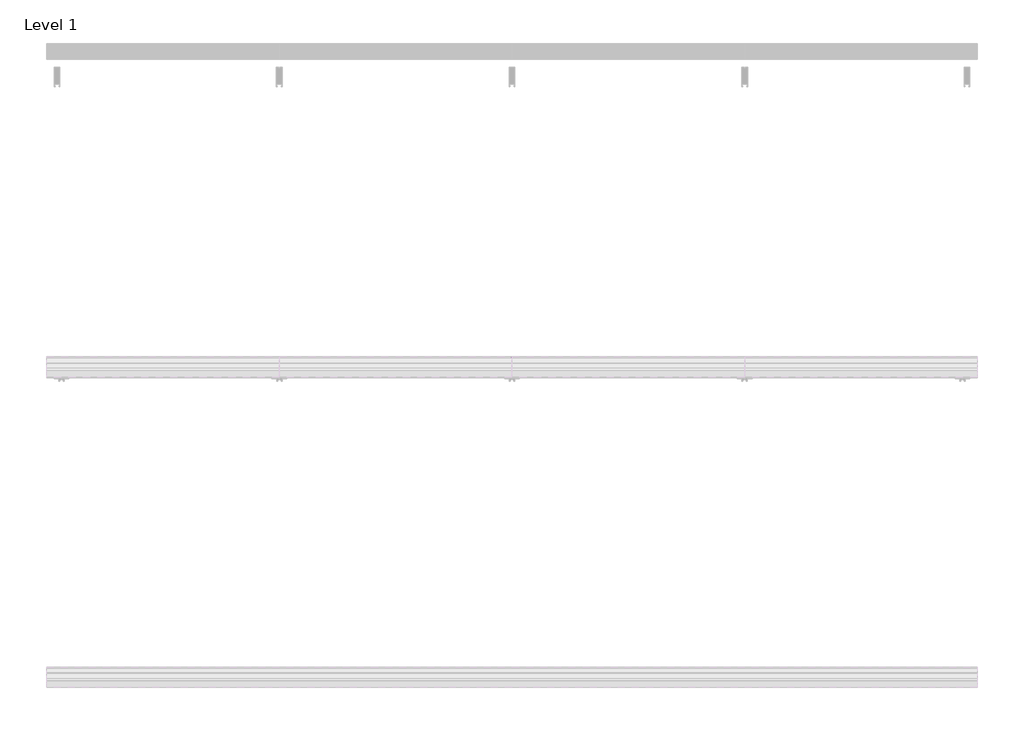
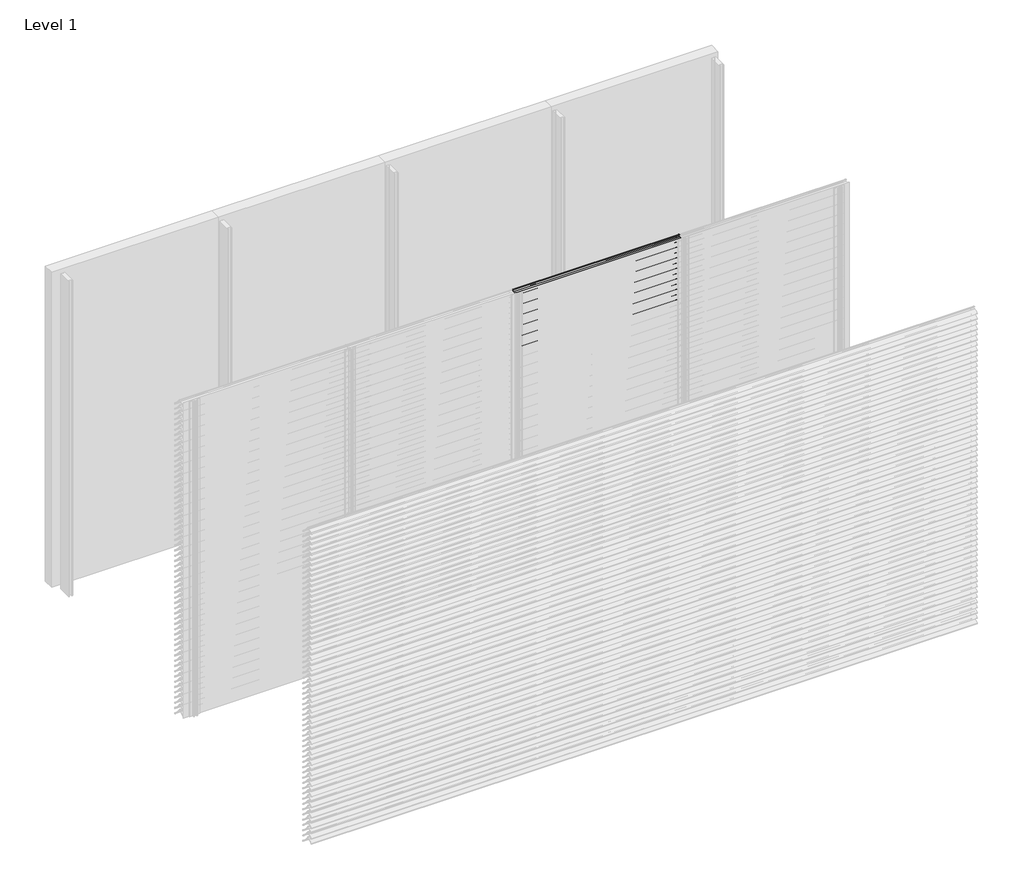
# One storey, part 13 of 173: 17 proxies.
"""IFC4 building model written with IfcOpenShell, lengths in millimetres."""

from ifc_helpers import new_model, si_unit, point, frame, frame_2d, origin, place, context, project, spatial, polyline, circle_curve, trimmed, segment, composite_curve, outline, extrude, element, save

model = new_model("IFC4")

# Units and contexts
model_context = context("Model", 3, world=origin())
ifc_project = project(units=[si_unit("LENGTHUNIT", "METRE", prefix="MILLI")], contexts=[model_context])

# Site, building, storey
site = spatial("IfcSite", under=ifc_project)
building = spatial("IfcBuilding", under=site)
storey = spatial("IfcBuildingStorey", under=building, Name="Level 1", Elevation=0.0)

# Proxies
placement = place(None, origin())
element("IfcBuildingElementProxy", 1, Name="Wall Sweeps", at=placement, inside=storey, context=model_context, shape_type="SweptSolid", body=[
    extrude(outline(composite_curve([segment(polyline([(-53998.0, 159.1474905), (-53998.0, 161.6227417)]), True, "CONTINUOUS"), segment(trimmed(circle_curve(frame_2d((-53951.2682172, 116.2200208)), 65.1557103), [point((-53998.0, 161.6227417))], [point((-53954.4014323, 181.3003524))], False, "CARTESIAN"), True, "CONTINUOUS"), segment(polyline([(-53954.4014323, 181.3003524), (-53934.8315836, 181.3003524)]), True, "CONTINUOUS"), segment(trimmed(circle_curve(frame_2d((-53732.7329489, 328.5533172)), 250.0545817), [point((-53934.8315836, 181.3003524))], [point((-53941.4452143, 190.8344583))], False, "CARTESIAN"), True, "CONTINUOUS"), segment(trimmed(circle_curve(frame_2d((-53953.2981792, 185.1737835)), 13.1352966), [point((-53941.4452143, 190.8344583))], [point((-53953.8171475, 198.298824))], True, "CARTESIAN"), True, "CONTINUOUS"), segment(polyline([(-53953.8171475, 198.298824), (-53953.8171475, 200.0)]), True, "CONTINUOUS"), segment(trimmed(circle_curve(frame_2d((-53953.2981792, 185.1737835)), 14.8352966), [point((-53953.8171475, 200.0))], [point((-53939.9637661, 191.6760487))], False, "CARTESIAN"), True, "CONTINUOUS"), segment(trimmed(circle_curve(frame_2d((-53732.7329489, 328.5533172)), 248.3545817), [point((-53939.9637661, 191.6760487))], [point((-53873.8787895, 124.2059416))], True, "CARTESIAN"), True, "CONTINUOUS"), segment(trimmed(circle_curve(frame_2d((-53883.8147537, 111.6649442)), 16.0), [point((-53873.8787895, 124.2059416))], [point((-53867.8648347, 110.4))], False, "CARTESIAN"), True, "CONTINUOUS"), segment(polyline([(-53867.8648347, 110.4), (-53869.6712069, 110.4)]), True, "CONTINUOUS"), segment(trimmed(circle_curve(frame_2d((-53883.8147537, 111.6649442)), 14.2), [point((-53869.6712069, 110.4))], [point((-53874.9518628, 122.7594998))], True, "CARTESIAN"), True, "CONTINUOUS"), segment(trimmed(circle_curve(frame_2d((-53732.7329489, 328.5533172)), 250.1545817), [point((-53874.9518628, 122.7594998))], [point((-53933.7064024, 179.6003524))], False, "CARTESIAN"), True, "CONTINUOUS"), segment(polyline([(-53933.7064024, 179.6003524), (-53954.3602632, 179.6003524)]), True, "CONTINUOUS"), segment(trimmed(circle_curve(frame_2d((-53951.2682172, 116.2200208)), 63.4557103), [point((-53954.3602632, 179.6003524))], [point((-53998.0, 159.1474905))], True, "CARTESIAN"), True, "CONTINUOUS")], self_intersect=False)), frame((1500.0, 0.0, 0.0), z_axis=(1.0, 0.0, 0.0), x_axis=(0.0, 1.0, 0.0)), (0.0, 0.0, 1.0), 1500.0),
])
element("IfcBuildingElementProxy", 2, Name="Wall Sweeps", at=placement, inside=storey, context=model_context, shape_type="SweptSolid", body=[
    extrude(outline(composite_curve([segment(polyline([(-53998.0, 109.1474905), (-53998.0, 111.6227417)]), True, "CONTINUOUS"), segment(trimmed(circle_curve(frame_2d((-53951.2682172, 66.2200208)), 65.1557103), [point((-53998.0, 111.6227417))], [point((-53954.4014323, 131.3003524))], False, "CARTESIAN"), True, "CONTINUOUS"), segment(polyline([(-53954.4014323, 131.3003524), (-53934.8315836, 131.3003524)]), True, "CONTINUOUS"), segment(trimmed(circle_curve(frame_2d((-53732.7329489, 278.5533172)), 250.0545817), [point((-53934.8315836, 131.3003524))], [point((-53941.4452143, 140.8344583))], False, "CARTESIAN"), True, "CONTINUOUS"), segment(trimmed(circle_curve(frame_2d((-53953.2981792, 135.1737835)), 13.1352966), [point((-53941.4452143, 140.8344583))], [point((-53953.8171475, 148.298824))], True, "CARTESIAN"), True, "CONTINUOUS"), segment(polyline([(-53953.8171475, 148.298824), (-53953.8171475, 150.0)]), True, "CONTINUOUS"), segment(trimmed(circle_curve(frame_2d((-53953.2981792, 135.1737835)), 14.8352966), [point((-53953.8171475, 150.0))], [point((-53939.9637661, 141.6760487))], False, "CARTESIAN"), True, "CONTINUOUS"), segment(trimmed(circle_curve(frame_2d((-53732.7329489, 278.5533172)), 248.3545817), [point((-53939.9637661, 141.6760487))], [point((-53873.8787895, 74.2059416))], True, "CARTESIAN"), True, "CONTINUOUS"), segment(trimmed(circle_curve(frame_2d((-53883.8147537, 61.6649442)), 16.0), [point((-53873.8787895, 74.2059416))], [point((-53867.8648347, 60.4))], False, "CARTESIAN"), True, "CONTINUOUS"), segment(polyline([(-53867.8648347, 60.4), (-53869.6712069, 60.4)]), True, "CONTINUOUS"), segment(trimmed(circle_curve(frame_2d((-53883.8147537, 61.6649442)), 14.2), [point((-53869.6712069, 60.4))], [point((-53874.9518628, 72.7594998))], True, "CARTESIAN"), True, "CONTINUOUS"), segment(trimmed(circle_curve(frame_2d((-53732.7329489, 278.5533172)), 250.1545817), [point((-53874.9518628, 72.7594998))], [point((-53933.7064024, 129.6003524))], False, "CARTESIAN"), True, "CONTINUOUS"), segment(polyline([(-53933.7064024, 129.6003524), (-53954.3602632, 129.6003524)]), True, "CONTINUOUS"), segment(trimmed(circle_curve(frame_2d((-53951.2682172, 66.2200208)), 63.4557103), [point((-53954.3602632, 129.6003524))], [point((-53998.0, 109.1474905))], True, "CARTESIAN"), True, "CONTINUOUS")], self_intersect=False)), frame((1500.0, 0.0, 0.0), z_axis=(1.0, 0.0, 0.0), x_axis=(0.0, 1.0, 0.0)), (0.0, 0.0, 1.0), 1500.0),
])
element("IfcBuildingElementProxy", 3, Name="Wall Sweeps", at=placement, inside=storey, context=model_context, shape_type="SweptSolid", body=[
    extrude(outline(composite_curve([segment(polyline([(-53998.0, 59.1474905), (-53998.0, 61.6227417)]), True, "CONTINUOUS"), segment(trimmed(circle_curve(frame_2d((-53951.2682172, 16.2200208)), 65.1557103), [point((-53998.0, 61.6227417))], [point((-53954.4014323, 81.3003524))], False, "CARTESIAN"), True, "CONTINUOUS"), segment(polyline([(-53954.4014323, 81.3003524), (-53934.8315836, 81.3003524)]), True, "CONTINUOUS"), segment(trimmed(circle_curve(frame_2d((-53732.7329489, 228.5533172)), 250.0545817), [point((-53934.8315836, 81.3003524))], [point((-53941.4452143, 90.8344583))], False, "CARTESIAN"), True, "CONTINUOUS"), segment(trimmed(circle_curve(frame_2d((-53953.2981792, 85.1737835)), 13.1352966), [point((-53941.4452143, 90.8344583))], [point((-53953.8171475, 98.298824))], True, "CARTESIAN"), True, "CONTINUOUS"), segment(polyline([(-53953.8171475, 98.298824), (-53953.8171475, 100.0)]), True, "CONTINUOUS"), segment(trimmed(circle_curve(frame_2d((-53953.2981792, 85.1737835)), 14.8352966), [point((-53953.8171475, 100.0))], [point((-53939.9637661, 91.6760487))], False, "CARTESIAN"), True, "CONTINUOUS"), segment(trimmed(circle_curve(frame_2d((-53732.7329489, 228.5533172)), 248.3545817), [point((-53939.9637661, 91.6760487))], [point((-53873.8787895, 24.2059416))], True, "CARTESIAN"), True, "CONTINUOUS"), segment(trimmed(circle_curve(frame_2d((-53883.8147537, 11.6649442)), 16.0), [point((-53873.8787895, 24.2059416))], [point((-53867.8648347, 10.4))], False, "CARTESIAN"), True, "CONTINUOUS"), segment(polyline([(-53867.8648347, 10.4), (-53869.6712069, 10.4)]), True, "CONTINUOUS"), segment(trimmed(circle_curve(frame_2d((-53883.8147537, 11.6649442)), 14.2), [point((-53869.6712069, 10.4))], [point((-53874.9518628, 22.7594998))], True, "CARTESIAN"), True, "CONTINUOUS"), segment(trimmed(circle_curve(frame_2d((-53732.7329489, 228.5533172)), 250.1545817), [point((-53874.9518628, 22.7594998))], [point((-53933.7064024, 79.6003524))], False, "CARTESIAN"), True, "CONTINUOUS"), segment(polyline([(-53933.7064024, 79.6003524), (-53954.3602632, 79.6003524)]), True, "CONTINUOUS"), segment(trimmed(circle_curve(frame_2d((-53951.2682172, 16.2200208)), 63.4557103), [point((-53954.3602632, 79.6003524))], [point((-53998.0, 59.1474905))], True, "CARTESIAN"), True, "CONTINUOUS")], self_intersect=False)), frame((1500.0, 0.0, 0.0), z_axis=(1.0, 0.0, 0.0), x_axis=(0.0, 1.0, 0.0)), (0.0, 0.0, 1.0), 1500.0),
])
element("IfcBuildingElementProxy", 4, Name="Wall Sweeps", at=placement, inside=storey, context=model_context, shape_type="SweptSolid", body=[
    extrude(outline(composite_curve([segment(polyline([(-53998.0, 9.1474905), (-53998.0, 11.6227417)]), True, "CONTINUOUS"), segment(trimmed(circle_curve(frame_2d((-53951.2682172, -33.7799792)), 65.1557103), [point((-53998.0, 11.6227417))], [point((-53954.4014323, 31.3003524))], False, "CARTESIAN"), True, "CONTINUOUS"), segment(polyline([(-53954.4014323, 31.3003524), (-53934.8315836, 31.3003524)]), True, "CONTINUOUS"), segment(trimmed(circle_curve(frame_2d((-53732.7329489, 178.5533172)), 250.0545817), [point((-53934.8315836, 31.3003524))], [point((-53941.4452143, 40.8344583))], False, "CARTESIAN"), True, "CONTINUOUS"), segment(trimmed(circle_curve(frame_2d((-53953.2981792, 35.1737835)), 13.1352966), [point((-53941.4452143, 40.8344583))], [point((-53953.8171475, 48.298824))], True, "CARTESIAN"), True, "CONTINUOUS"), segment(polyline([(-53953.8171475, 48.298824), (-53953.8171475, 50.0)]), True, "CONTINUOUS"), segment(trimmed(circle_curve(frame_2d((-53953.2981792, 35.1737835)), 14.8352966), [point((-53953.8171475, 50.0))], [point((-53939.9637661, 41.6760487))], False, "CARTESIAN"), True, "CONTINUOUS"), segment(trimmed(circle_curve(frame_2d((-53732.7329489, 178.5533172)), 248.3545817), [point((-53939.9637661, 41.6760487))], [point((-53873.8787895, -25.7940584))], True, "CARTESIAN"), True, "CONTINUOUS"), segment(trimmed(circle_curve(frame_2d((-53883.8147537, -38.3350558)), 16.0), [point((-53873.8787895, -25.7940584))], [point((-53867.8648347, -39.6))], False, "CARTESIAN"), True, "CONTINUOUS"), segment(polyline([(-53867.8648347, -39.6), (-53869.6712069, -39.6)]), True, "CONTINUOUS"), segment(trimmed(circle_curve(frame_2d((-53883.8147537, -38.3350558)), 14.2), [point((-53869.6712069, -39.6))], [point((-53874.9518628, -27.2405002))], True, "CARTESIAN"), True, "CONTINUOUS"), segment(trimmed(circle_curve(frame_2d((-53732.7329489, 178.5533172)), 250.1545817), [point((-53874.9518628, -27.2405002))], [point((-53933.7064024, 29.6003524))], False, "CARTESIAN"), True, "CONTINUOUS"), segment(polyline([(-53933.7064024, 29.6003524), (-53954.3602632, 29.6003524)]), True, "CONTINUOUS"), segment(trimmed(circle_curve(frame_2d((-53951.2682172, -33.7799792)), 63.4557103), [point((-53954.3602632, 29.6003524))], [point((-53998.0, 9.1474905))], True, "CARTESIAN"), True, "CONTINUOUS")], self_intersect=False)), frame((1500.0, 0.0, 0.0), z_axis=(1.0, 0.0, 0.0), x_axis=(0.0, 1.0, 0.0)), (0.0, 0.0, 1.0), 1500.0),
])
element("IfcBuildingElementProxy", 5, Name="Wall Sweeps", at=placement, inside=storey, context=model_context, shape_type="SweptSolid", body=[
    extrude(outline(composite_curve([segment(polyline([(-53998.0, 2959.1474905), (-53998.0, 2961.6227417)]), True, "CONTINUOUS"), segment(trimmed(circle_curve(frame_2d((-53951.2682172, 2916.2200208)), 65.1557103), [point((-53998.0, 2961.6227417))], [point((-53954.4014323, 2981.3003524))], False, "CARTESIAN"), True, "CONTINUOUS"), segment(polyline([(-53954.4014323, 2981.3003524), (-53934.8315836, 2981.3003524)]), True, "CONTINUOUS"), segment(trimmed(circle_curve(frame_2d((-53732.7329489, 3128.5533172)), 250.0545817), [point((-53934.8315836, 2981.3003524))], [point((-53941.4452143, 2990.8344583))], False, "CARTESIAN"), True, "CONTINUOUS"), segment(trimmed(circle_curve(frame_2d((-53953.2981792, 2985.1737835)), 13.1352966), [point((-53941.4452143, 2990.8344583))], [point((-53953.8171475, 2998.298824))], True, "CARTESIAN"), True, "CONTINUOUS"), segment(polyline([(-53953.8171475, 2998.298824), (-53953.8171475, 3000.0)]), True, "CONTINUOUS"), segment(trimmed(circle_curve(frame_2d((-53953.2981792, 2985.1737835)), 14.8352966), [point((-53953.8171475, 3000.0))], [point((-53939.9637661, 2991.6760487))], False, "CARTESIAN"), True, "CONTINUOUS"), segment(trimmed(circle_curve(frame_2d((-53732.7329489, 3128.5533172)), 248.3545817), [point((-53939.9637661, 2991.6760487))], [point((-53873.8787895, 2924.2059416))], True, "CARTESIAN"), True, "CONTINUOUS"), segment(trimmed(circle_curve(frame_2d((-53883.8147537, 2911.6649442)), 16.0), [point((-53873.8787895, 2924.2059416))], [point((-53867.8648347, 2910.4))], False, "CARTESIAN"), True, "CONTINUOUS"), segment(polyline([(-53867.8648347, 2910.4), (-53869.6712069, 2910.4)]), True, "CONTINUOUS"), segment(trimmed(circle_curve(frame_2d((-53883.8147537, 2911.6649442)), 14.2), [point((-53869.6712069, 2910.4))], [point((-53874.9518628, 2922.7594998))], True, "CARTESIAN"), True, "CONTINUOUS"), segment(trimmed(circle_curve(frame_2d((-53732.7329489, 3128.5533172)), 250.1545817), [point((-53874.9518628, 2922.7594998))], [point((-53933.7064024, 2979.6003524))], False, "CARTESIAN"), True, "CONTINUOUS"), segment(polyline([(-53933.7064024, 2979.6003524), (-53954.3602632, 2979.6003524)]), True, "CONTINUOUS"), segment(trimmed(circle_curve(frame_2d((-53951.2682172, 2916.2200208)), 63.4557103), [point((-53954.3602632, 2979.6003524))], [point((-53998.0, 2959.1474905))], True, "CARTESIAN"), True, "CONTINUOUS")], self_intersect=False)), frame((3000.0, 0.0, 0.0), z_axis=(1.0, 0.0, 0.0), x_axis=(0.0, 1.0, 0.0)), (0.0, 0.0, 1.0), 1500.0),
])
element("IfcBuildingElementProxy", 6, Name="Wall Sweeps", at=placement, inside=storey, context=model_context, shape_type="SweptSolid", body=[
    extrude(outline(composite_curve([segment(polyline([(-53998.0, 2909.1474905), (-53998.0, 2911.6227417)]), True, "CONTINUOUS"), segment(trimmed(circle_curve(frame_2d((-53951.2682172, 2866.2200208)), 65.1557103), [point((-53998.0, 2911.6227417))], [point((-53954.4014323, 2931.3003524))], False, "CARTESIAN"), True, "CONTINUOUS"), segment(polyline([(-53954.4014323, 2931.3003524), (-53934.8315836, 2931.3003524)]), True, "CONTINUOUS"), segment(trimmed(circle_curve(frame_2d((-53732.7329489, 3078.5533172)), 250.0545817), [point((-53934.8315836, 2931.3003524))], [point((-53941.4452143, 2940.8344583))], False, "CARTESIAN"), True, "CONTINUOUS"), segment(trimmed(circle_curve(frame_2d((-53953.2981792, 2935.1737835)), 13.1352966), [point((-53941.4452143, 2940.8344583))], [point((-53953.8171475, 2948.298824))], True, "CARTESIAN"), True, "CONTINUOUS"), segment(polyline([(-53953.8171475, 2948.298824), (-53953.8171475, 2950.0)]), True, "CONTINUOUS"), segment(trimmed(circle_curve(frame_2d((-53953.2981792, 2935.1737835)), 14.8352966), [point((-53953.8171475, 2950.0))], [point((-53939.9637661, 2941.6760487))], False, "CARTESIAN"), True, "CONTINUOUS"), segment(trimmed(circle_curve(frame_2d((-53732.7329489, 3078.5533172)), 248.3545817), [point((-53939.9637661, 2941.6760487))], [point((-53873.8787895, 2874.2059416))], True, "CARTESIAN"), True, "CONTINUOUS"), segment(trimmed(circle_curve(frame_2d((-53883.8147537, 2861.6649442)), 16.0), [point((-53873.8787895, 2874.2059416))], [point((-53867.8648347, 2860.4))], False, "CARTESIAN"), True, "CONTINUOUS"), segment(polyline([(-53867.8648347, 2860.4), (-53869.6712069, 2860.4)]), True, "CONTINUOUS"), segment(trimmed(circle_curve(frame_2d((-53883.8147537, 2861.6649442)), 14.2), [point((-53869.6712069, 2860.4))], [point((-53874.9518628, 2872.7594998))], True, "CARTESIAN"), True, "CONTINUOUS"), segment(trimmed(circle_curve(frame_2d((-53732.7329489, 3078.5533172)), 250.1545817), [point((-53874.9518628, 2872.7594998))], [point((-53933.7064024, 2929.6003524))], False, "CARTESIAN"), True, "CONTINUOUS"), segment(polyline([(-53933.7064024, 2929.6003524), (-53954.3602632, 2929.6003524)]), True, "CONTINUOUS"), segment(trimmed(circle_curve(frame_2d((-53951.2682172, 2866.2200208)), 63.4557103), [point((-53954.3602632, 2929.6003524))], [point((-53998.0, 2909.1474905))], True, "CARTESIAN"), True, "CONTINUOUS")], self_intersect=False)), frame((3000.0, 0.0, 0.0), z_axis=(1.0, 0.0, 0.0), x_axis=(0.0, 1.0, 0.0)), (0.0, 0.0, 1.0), 1500.0),
])
element("IfcBuildingElementProxy", 7, Name="Wall Sweeps", at=placement, inside=storey, context=model_context, shape_type="SweptSolid", body=[
    extrude(outline(composite_curve([segment(polyline([(-53998.0, 2859.1474905), (-53998.0, 2861.6227417)]), True, "CONTINUOUS"), segment(trimmed(circle_curve(frame_2d((-53951.2682172, 2816.2200208)), 65.1557103), [point((-53998.0, 2861.6227417))], [point((-53954.4014323, 2881.3003524))], False, "CARTESIAN"), True, "CONTINUOUS"), segment(polyline([(-53954.4014323, 2881.3003524), (-53934.8315836, 2881.3003524)]), True, "CONTINUOUS"), segment(trimmed(circle_curve(frame_2d((-53732.7329489, 3028.5533172)), 250.0545817), [point((-53934.8315836, 2881.3003524))], [point((-53941.4452143, 2890.8344583))], False, "CARTESIAN"), True, "CONTINUOUS"), segment(trimmed(circle_curve(frame_2d((-53953.2981792, 2885.1737835)), 13.1352966), [point((-53941.4452143, 2890.8344583))], [point((-53953.8171475, 2898.298824))], True, "CARTESIAN"), True, "CONTINUOUS"), segment(polyline([(-53953.8171475, 2898.298824), (-53953.8171475, 2900.0)]), True, "CONTINUOUS"), segment(trimmed(circle_curve(frame_2d((-53953.2981792, 2885.1737835)), 14.8352966), [point((-53953.8171475, 2900.0))], [point((-53939.9637661, 2891.6760487))], False, "CARTESIAN"), True, "CONTINUOUS"), segment(trimmed(circle_curve(frame_2d((-53732.7329489, 3028.5533172)), 248.3545817), [point((-53939.9637661, 2891.6760487))], [point((-53873.8787895, 2824.2059416))], True, "CARTESIAN"), True, "CONTINUOUS"), segment(trimmed(circle_curve(frame_2d((-53883.8147537, 2811.6649442)), 16.0), [point((-53873.8787895, 2824.2059416))], [point((-53867.8648347, 2810.4))], False, "CARTESIAN"), True, "CONTINUOUS"), segment(polyline([(-53867.8648347, 2810.4), (-53869.6712069, 2810.4)]), True, "CONTINUOUS"), segment(trimmed(circle_curve(frame_2d((-53883.8147537, 2811.6649442)), 14.2), [point((-53869.6712069, 2810.4))], [point((-53874.9518628, 2822.7594998))], True, "CARTESIAN"), True, "CONTINUOUS"), segment(trimmed(circle_curve(frame_2d((-53732.7329489, 3028.5533172)), 250.1545817), [point((-53874.9518628, 2822.7594998))], [point((-53933.7064024, 2879.6003524))], False, "CARTESIAN"), True, "CONTINUOUS"), segment(polyline([(-53933.7064024, 2879.6003524), (-53954.3602632, 2879.6003524)]), True, "CONTINUOUS"), segment(trimmed(circle_curve(frame_2d((-53951.2682172, 2816.2200208)), 63.4557103), [point((-53954.3602632, 2879.6003524))], [point((-53998.0, 2859.1474905))], True, "CARTESIAN"), True, "CONTINUOUS")], self_intersect=False)), frame((3000.0, 0.0, 0.0), z_axis=(1.0, 0.0, 0.0), x_axis=(0.0, 1.0, 0.0)), (0.0, 0.0, 1.0), 1500.0),
])
element("IfcBuildingElementProxy", 8, Name="Wall Sweeps", at=placement, inside=storey, context=model_context, shape_type="SweptSolid", body=[
    extrude(outline(composite_curve([segment(polyline([(-53998.0, 2809.1474905), (-53998.0, 2811.6227417)]), True, "CONTINUOUS"), segment(trimmed(circle_curve(frame_2d((-53951.2682172, 2766.2200208)), 65.1557103), [point((-53998.0, 2811.6227417))], [point((-53954.4014323, 2831.3003524))], False, "CARTESIAN"), True, "CONTINUOUS"), segment(polyline([(-53954.4014323, 2831.3003524), (-53934.8315836, 2831.3003524)]), True, "CONTINUOUS"), segment(trimmed(circle_curve(frame_2d((-53732.7329489, 2978.5533172)), 250.0545817), [point((-53934.8315836, 2831.3003524))], [point((-53941.4452143, 2840.8344583))], False, "CARTESIAN"), True, "CONTINUOUS"), segment(trimmed(circle_curve(frame_2d((-53953.2981792, 2835.1737835)), 13.1352966), [point((-53941.4452143, 2840.8344583))], [point((-53953.8171475, 2848.298824))], True, "CARTESIAN"), True, "CONTINUOUS"), segment(polyline([(-53953.8171475, 2848.298824), (-53953.8171475, 2850.0)]), True, "CONTINUOUS"), segment(trimmed(circle_curve(frame_2d((-53953.2981792, 2835.1737835)), 14.8352966), [point((-53953.8171475, 2850.0))], [point((-53939.9637661, 2841.6760487))], False, "CARTESIAN"), True, "CONTINUOUS"), segment(trimmed(circle_curve(frame_2d((-53732.7329489, 2978.5533172)), 248.3545817), [point((-53939.9637661, 2841.6760487))], [point((-53873.8787895, 2774.2059416))], True, "CARTESIAN"), True, "CONTINUOUS"), segment(trimmed(circle_curve(frame_2d((-53883.8147537, 2761.6649442)), 16.0), [point((-53873.8787895, 2774.2059416))], [point((-53867.8648347, 2760.4))], False, "CARTESIAN"), True, "CONTINUOUS"), segment(polyline([(-53867.8648347, 2760.4), (-53869.6712069, 2760.4)]), True, "CONTINUOUS"), segment(trimmed(circle_curve(frame_2d((-53883.8147537, 2761.6649442)), 14.2), [point((-53869.6712069, 2760.4))], [point((-53874.9518628, 2772.7594998))], True, "CARTESIAN"), True, "CONTINUOUS"), segment(trimmed(circle_curve(frame_2d((-53732.7329489, 2978.5533172)), 250.1545817), [point((-53874.9518628, 2772.7594998))], [point((-53933.7064024, 2829.6003524))], False, "CARTESIAN"), True, "CONTINUOUS"), segment(polyline([(-53933.7064024, 2829.6003524), (-53954.3602632, 2829.6003524)]), True, "CONTINUOUS"), segment(trimmed(circle_curve(frame_2d((-53951.2682172, 2766.2200208)), 63.4557103), [point((-53954.3602632, 2829.6003524))], [point((-53998.0, 2809.1474905))], True, "CARTESIAN"), True, "CONTINUOUS")], self_intersect=False)), frame((3000.0, 0.0, 0.0), z_axis=(1.0, 0.0, 0.0), x_axis=(0.0, 1.0, 0.0)), (0.0, 0.0, 1.0), 1500.0),
])
element("IfcBuildingElementProxy", 9, Name="Wall Sweeps", at=placement, inside=storey, context=model_context, shape_type="SweptSolid", body=[
    extrude(outline(composite_curve([segment(polyline([(-53998.0, 2759.1474905), (-53998.0, 2761.6227417)]), True, "CONTINUOUS"), segment(trimmed(circle_curve(frame_2d((-53951.2682172, 2716.2200208)), 65.1557103), [point((-53998.0, 2761.6227417))], [point((-53954.4014323, 2781.3003524))], False, "CARTESIAN"), True, "CONTINUOUS"), segment(polyline([(-53954.4014323, 2781.3003524), (-53934.8315836, 2781.3003524)]), True, "CONTINUOUS"), segment(trimmed(circle_curve(frame_2d((-53732.7329489, 2928.5533172)), 250.0545817), [point((-53934.8315836, 2781.3003524))], [point((-53941.4452143, 2790.8344583))], False, "CARTESIAN"), True, "CONTINUOUS"), segment(trimmed(circle_curve(frame_2d((-53953.2981792, 2785.1737835)), 13.1352966), [point((-53941.4452143, 2790.8344583))], [point((-53953.8171475, 2798.298824))], True, "CARTESIAN"), True, "CONTINUOUS"), segment(polyline([(-53953.8171475, 2798.298824), (-53953.8171475, 2800.0)]), True, "CONTINUOUS"), segment(trimmed(circle_curve(frame_2d((-53953.2981792, 2785.1737835)), 14.8352966), [point((-53953.8171475, 2800.0))], [point((-53939.9637661, 2791.6760487))], False, "CARTESIAN"), True, "CONTINUOUS"), segment(trimmed(circle_curve(frame_2d((-53732.7329489, 2928.5533172)), 248.3545817), [point((-53939.9637661, 2791.6760487))], [point((-53873.8787895, 2724.2059416))], True, "CARTESIAN"), True, "CONTINUOUS"), segment(trimmed(circle_curve(frame_2d((-53883.8147537, 2711.6649442)), 16.0), [point((-53873.8787895, 2724.2059416))], [point((-53867.8648347, 2710.4))], False, "CARTESIAN"), True, "CONTINUOUS"), segment(polyline([(-53867.8648347, 2710.4), (-53869.6712069, 2710.4)]), True, "CONTINUOUS"), segment(trimmed(circle_curve(frame_2d((-53883.8147537, 2711.6649442)), 14.2), [point((-53869.6712069, 2710.4))], [point((-53874.9518628, 2722.7594998))], True, "CARTESIAN"), True, "CONTINUOUS"), segment(trimmed(circle_curve(frame_2d((-53732.7329489, 2928.5533172)), 250.1545817), [point((-53874.9518628, 2722.7594998))], [point((-53933.7064024, 2779.6003524))], False, "CARTESIAN"), True, "CONTINUOUS"), segment(polyline([(-53933.7064024, 2779.6003524), (-53954.3602632, 2779.6003524)]), True, "CONTINUOUS"), segment(trimmed(circle_curve(frame_2d((-53951.2682172, 2716.2200208)), 63.4557103), [point((-53954.3602632, 2779.6003524))], [point((-53998.0, 2759.1474905))], True, "CARTESIAN"), True, "CONTINUOUS")], self_intersect=False)), frame((3000.0, 0.0, 0.0), z_axis=(1.0, 0.0, 0.0), x_axis=(0.0, 1.0, 0.0)), (0.0, 0.0, 1.0), 1500.0),
])
element("IfcBuildingElementProxy", 10, Name="Wall Sweeps", at=placement, inside=storey, context=model_context, shape_type="SweptSolid", body=[
    extrude(outline(composite_curve([segment(polyline([(-53998.0, 2709.1474905), (-53998.0, 2711.6227417)]), True, "CONTINUOUS"), segment(trimmed(circle_curve(frame_2d((-53951.2682172, 2666.2200208)), 65.1557103), [point((-53998.0, 2711.6227417))], [point((-53954.4014323, 2731.3003524))], False, "CARTESIAN"), True, "CONTINUOUS"), segment(polyline([(-53954.4014323, 2731.3003524), (-53934.8315836, 2731.3003524)]), True, "CONTINUOUS"), segment(trimmed(circle_curve(frame_2d((-53732.7329489, 2878.5533172)), 250.0545817), [point((-53934.8315836, 2731.3003524))], [point((-53941.4452143, 2740.8344583))], False, "CARTESIAN"), True, "CONTINUOUS"), segment(trimmed(circle_curve(frame_2d((-53953.2981792, 2735.1737835)), 13.1352966), [point((-53941.4452143, 2740.8344583))], [point((-53953.8171475, 2748.298824))], True, "CARTESIAN"), True, "CONTINUOUS"), segment(polyline([(-53953.8171475, 2748.298824), (-53953.8171475, 2750.0)]), True, "CONTINUOUS"), segment(trimmed(circle_curve(frame_2d((-53953.2981792, 2735.1737835)), 14.8352966), [point((-53953.8171475, 2750.0))], [point((-53939.9637661, 2741.6760487))], False, "CARTESIAN"), True, "CONTINUOUS"), segment(trimmed(circle_curve(frame_2d((-53732.7329489, 2878.5533172)), 248.3545817), [point((-53939.9637661, 2741.6760487))], [point((-53873.8787895, 2674.2059416))], True, "CARTESIAN"), True, "CONTINUOUS"), segment(trimmed(circle_curve(frame_2d((-53883.8147537, 2661.6649442)), 16.0), [point((-53873.8787895, 2674.2059416))], [point((-53867.8648347, 2660.4))], False, "CARTESIAN"), True, "CONTINUOUS"), segment(polyline([(-53867.8648347, 2660.4), (-53869.6712069, 2660.4)]), True, "CONTINUOUS"), segment(trimmed(circle_curve(frame_2d((-53883.8147537, 2661.6649442)), 14.2), [point((-53869.6712069, 2660.4))], [point((-53874.9518628, 2672.7594998))], True, "CARTESIAN"), True, "CONTINUOUS"), segment(trimmed(circle_curve(frame_2d((-53732.7329489, 2878.5533172)), 250.1545817), [point((-53874.9518628, 2672.7594998))], [point((-53933.7064024, 2729.6003524))], False, "CARTESIAN"), True, "CONTINUOUS"), segment(polyline([(-53933.7064024, 2729.6003524), (-53954.3602632, 2729.6003524)]), True, "CONTINUOUS"), segment(trimmed(circle_curve(frame_2d((-53951.2682172, 2666.2200208)), 63.4557103), [point((-53954.3602632, 2729.6003524))], [point((-53998.0, 2709.1474905))], True, "CARTESIAN"), True, "CONTINUOUS")], self_intersect=False)), frame((3000.0, 0.0, 0.0), z_axis=(1.0, 0.0, 0.0), x_axis=(0.0, 1.0, 0.0)), (0.0, 0.0, 1.0), 1500.0),
])
element("IfcBuildingElementProxy", 11, Name="Wall Sweeps", at=placement, inside=storey, context=model_context, shape_type="SweptSolid", body=[
    extrude(outline(composite_curve([segment(polyline([(-53998.0, 2659.1474905), (-53998.0, 2661.6227417)]), True, "CONTINUOUS"), segment(trimmed(circle_curve(frame_2d((-53951.2682172, 2616.2200208)), 65.1557103), [point((-53998.0, 2661.6227417))], [point((-53954.4014323, 2681.3003524))], False, "CARTESIAN"), True, "CONTINUOUS"), segment(polyline([(-53954.4014323, 2681.3003524), (-53934.8315836, 2681.3003524)]), True, "CONTINUOUS"), segment(trimmed(circle_curve(frame_2d((-53732.7329489, 2828.5533172)), 250.0545817), [point((-53934.8315836, 2681.3003524))], [point((-53941.4452143, 2690.8344583))], False, "CARTESIAN"), True, "CONTINUOUS"), segment(trimmed(circle_curve(frame_2d((-53953.2981792, 2685.1737835)), 13.1352966), [point((-53941.4452143, 2690.8344583))], [point((-53953.8171475, 2698.298824))], True, "CARTESIAN"), True, "CONTINUOUS"), segment(polyline([(-53953.8171475, 2698.298824), (-53953.8171475, 2700.0)]), True, "CONTINUOUS"), segment(trimmed(circle_curve(frame_2d((-53953.2981792, 2685.1737835)), 14.8352966), [point((-53953.8171475, 2700.0))], [point((-53939.9637661, 2691.6760487))], False, "CARTESIAN"), True, "CONTINUOUS"), segment(trimmed(circle_curve(frame_2d((-53732.7329489, 2828.5533172)), 248.3545817), [point((-53939.9637661, 2691.6760487))], [point((-53873.8787895, 2624.2059416))], True, "CARTESIAN"), True, "CONTINUOUS"), segment(trimmed(circle_curve(frame_2d((-53883.8147537, 2611.6649442)), 16.0), [point((-53873.8787895, 2624.2059416))], [point((-53867.8648347, 2610.4))], False, "CARTESIAN"), True, "CONTINUOUS"), segment(polyline([(-53867.8648347, 2610.4), (-53869.6712069, 2610.4)]), True, "CONTINUOUS"), segment(trimmed(circle_curve(frame_2d((-53883.8147537, 2611.6649442)), 14.2), [point((-53869.6712069, 2610.4))], [point((-53874.9518628, 2622.7594998))], True, "CARTESIAN"), True, "CONTINUOUS"), segment(trimmed(circle_curve(frame_2d((-53732.7329489, 2828.5533172)), 250.1545817), [point((-53874.9518628, 2622.7594998))], [point((-53933.7064024, 2679.6003524))], False, "CARTESIAN"), True, "CONTINUOUS"), segment(polyline([(-53933.7064024, 2679.6003524), (-53954.3602632, 2679.6003524)]), True, "CONTINUOUS"), segment(trimmed(circle_curve(frame_2d((-53951.2682172, 2616.2200208)), 63.4557103), [point((-53954.3602632, 2679.6003524))], [point((-53998.0, 2659.1474905))], True, "CARTESIAN"), True, "CONTINUOUS")], self_intersect=False)), frame((3000.0, 0.0, 0.0), z_axis=(1.0, 0.0, 0.0), x_axis=(0.0, 1.0, 0.0)), (0.0, 0.0, 1.0), 1500.0),
])
element("IfcBuildingElementProxy", 12, Name="Wall Sweeps", at=placement, inside=storey, context=model_context, shape_type="SweptSolid", body=[
    extrude(outline(composite_curve([segment(polyline([(-53998.0, 2609.1474905), (-53998.0, 2611.6227417)]), True, "CONTINUOUS"), segment(trimmed(circle_curve(frame_2d((-53951.2682172, 2566.2200208)), 65.1557103), [point((-53998.0, 2611.6227417))], [point((-53954.4014323, 2631.3003524))], False, "CARTESIAN"), True, "CONTINUOUS"), segment(polyline([(-53954.4014323, 2631.3003524), (-53934.8315836, 2631.3003524)]), True, "CONTINUOUS"), segment(trimmed(circle_curve(frame_2d((-53732.7329489, 2778.5533172)), 250.0545817), [point((-53934.8315836, 2631.3003524))], [point((-53941.4452143, 2640.8344583))], False, "CARTESIAN"), True, "CONTINUOUS"), segment(trimmed(circle_curve(frame_2d((-53953.2981792, 2635.1737835)), 13.1352966), [point((-53941.4452143, 2640.8344583))], [point((-53953.8171475, 2648.298824))], True, "CARTESIAN"), True, "CONTINUOUS"), segment(polyline([(-53953.8171475, 2648.298824), (-53953.8171475, 2650.0)]), True, "CONTINUOUS"), segment(trimmed(circle_curve(frame_2d((-53953.2981792, 2635.1737835)), 14.8352966), [point((-53953.8171475, 2650.0))], [point((-53939.9637661, 2641.6760487))], False, "CARTESIAN"), True, "CONTINUOUS"), segment(trimmed(circle_curve(frame_2d((-53732.7329489, 2778.5533172)), 248.3545817), [point((-53939.9637661, 2641.6760487))], [point((-53873.8787895, 2574.2059416))], True, "CARTESIAN"), True, "CONTINUOUS"), segment(trimmed(circle_curve(frame_2d((-53883.8147537, 2561.6649442)), 16.0), [point((-53873.8787895, 2574.2059416))], [point((-53867.8648347, 2560.4))], False, "CARTESIAN"), True, "CONTINUOUS"), segment(polyline([(-53867.8648347, 2560.4), (-53869.6712069, 2560.4)]), True, "CONTINUOUS"), segment(trimmed(circle_curve(frame_2d((-53883.8147537, 2561.6649442)), 14.2), [point((-53869.6712069, 2560.4))], [point((-53874.9518628, 2572.7594998))], True, "CARTESIAN"), True, "CONTINUOUS"), segment(trimmed(circle_curve(frame_2d((-53732.7329489, 2778.5533172)), 250.1545817), [point((-53874.9518628, 2572.7594998))], [point((-53933.7064024, 2629.6003524))], False, "CARTESIAN"), True, "CONTINUOUS"), segment(polyline([(-53933.7064024, 2629.6003524), (-53954.3602632, 2629.6003524)]), True, "CONTINUOUS"), segment(trimmed(circle_curve(frame_2d((-53951.2682172, 2566.2200208)), 63.4557103), [point((-53954.3602632, 2629.6003524))], [point((-53998.0, 2609.1474905))], True, "CARTESIAN"), True, "CONTINUOUS")], self_intersect=False)), frame((3000.0, 0.0, 0.0), z_axis=(1.0, 0.0, 0.0), x_axis=(0.0, 1.0, 0.0)), (0.0, 0.0, 1.0), 1500.0),
])
element("IfcBuildingElementProxy", 13, Name="Wall Sweeps", at=placement, inside=storey, context=model_context, shape_type="SweptSolid", body=[
    extrude(outline(composite_curve([segment(polyline([(-53998.0, 2559.1474905), (-53998.0, 2561.6227417)]), True, "CONTINUOUS"), segment(trimmed(circle_curve(frame_2d((-53951.2682172, 2516.2200208)), 65.1557103), [point((-53998.0, 2561.6227417))], [point((-53954.4014323, 2581.3003524))], False, "CARTESIAN"), True, "CONTINUOUS"), segment(polyline([(-53954.4014323, 2581.3003524), (-53934.8315836, 2581.3003524)]), True, "CONTINUOUS"), segment(trimmed(circle_curve(frame_2d((-53732.7329489, 2728.5533172)), 250.0545817), [point((-53934.8315836, 2581.3003524))], [point((-53941.4452143, 2590.8344583))], False, "CARTESIAN"), True, "CONTINUOUS"), segment(trimmed(circle_curve(frame_2d((-53953.2981792, 2585.1737835)), 13.1352966), [point((-53941.4452143, 2590.8344583))], [point((-53953.8171475, 2598.298824))], True, "CARTESIAN"), True, "CONTINUOUS"), segment(polyline([(-53953.8171475, 2598.298824), (-53953.8171475, 2600.0)]), True, "CONTINUOUS"), segment(trimmed(circle_curve(frame_2d((-53953.2981792, 2585.1737835)), 14.8352966), [point((-53953.8171475, 2600.0))], [point((-53939.9637661, 2591.6760487))], False, "CARTESIAN"), True, "CONTINUOUS"), segment(trimmed(circle_curve(frame_2d((-53732.7329489, 2728.5533172)), 248.3545817), [point((-53939.9637661, 2591.6760487))], [point((-53873.8787895, 2524.2059416))], True, "CARTESIAN"), True, "CONTINUOUS"), segment(trimmed(circle_curve(frame_2d((-53883.8147537, 2511.6649442)), 16.0), [point((-53873.8787895, 2524.2059416))], [point((-53867.8648347, 2510.4))], False, "CARTESIAN"), True, "CONTINUOUS"), segment(polyline([(-53867.8648347, 2510.4), (-53869.6712069, 2510.4)]), True, "CONTINUOUS"), segment(trimmed(circle_curve(frame_2d((-53883.8147537, 2511.6649442)), 14.2), [point((-53869.6712069, 2510.4))], [point((-53874.9518628, 2522.7594998))], True, "CARTESIAN"), True, "CONTINUOUS"), segment(trimmed(circle_curve(frame_2d((-53732.7329489, 2728.5533172)), 250.1545817), [point((-53874.9518628, 2522.7594998))], [point((-53933.7064024, 2579.6003524))], False, "CARTESIAN"), True, "CONTINUOUS"), segment(polyline([(-53933.7064024, 2579.6003524), (-53954.3602632, 2579.6003524)]), True, "CONTINUOUS"), segment(trimmed(circle_curve(frame_2d((-53951.2682172, 2516.2200208)), 63.4557103), [point((-53954.3602632, 2579.6003524))], [point((-53998.0, 2559.1474905))], True, "CARTESIAN"), True, "CONTINUOUS")], self_intersect=False)), frame((3000.0, 0.0, 0.0), z_axis=(1.0, 0.0, 0.0), x_axis=(0.0, 1.0, 0.0)), (0.0, 0.0, 1.0), 1500.0),
])
element("IfcBuildingElementProxy", 14, Name="Wall Sweeps", at=placement, inside=storey, context=model_context, shape_type="SweptSolid", body=[
    extrude(outline(composite_curve([segment(polyline([(-53998.0, 2509.1474905), (-53998.0, 2511.6227417)]), True, "CONTINUOUS"), segment(trimmed(circle_curve(frame_2d((-53951.2682172, 2466.2200208)), 65.1557103), [point((-53998.0, 2511.6227417))], [point((-53954.4014323, 2531.3003524))], False, "CARTESIAN"), True, "CONTINUOUS"), segment(polyline([(-53954.4014323, 2531.3003524), (-53934.8315836, 2531.3003524)]), True, "CONTINUOUS"), segment(trimmed(circle_curve(frame_2d((-53732.7329489, 2678.5533172)), 250.0545817), [point((-53934.8315836, 2531.3003524))], [point((-53941.4452143, 2540.8344583))], False, "CARTESIAN"), True, "CONTINUOUS"), segment(trimmed(circle_curve(frame_2d((-53953.2981792, 2535.1737835)), 13.1352966), [point((-53941.4452143, 2540.8344583))], [point((-53953.8171475, 2548.298824))], True, "CARTESIAN"), True, "CONTINUOUS"), segment(polyline([(-53953.8171475, 2548.298824), (-53953.8171475, 2550.0)]), True, "CONTINUOUS"), segment(trimmed(circle_curve(frame_2d((-53953.2981792, 2535.1737835)), 14.8352966), [point((-53953.8171475, 2550.0))], [point((-53939.9637661, 2541.6760487))], False, "CARTESIAN"), True, "CONTINUOUS"), segment(trimmed(circle_curve(frame_2d((-53732.7329489, 2678.5533172)), 248.3545817), [point((-53939.9637661, 2541.6760487))], [point((-53873.8787895, 2474.2059416))], True, "CARTESIAN"), True, "CONTINUOUS"), segment(trimmed(circle_curve(frame_2d((-53883.8147537, 2461.6649442)), 16.0), [point((-53873.8787895, 2474.2059416))], [point((-53867.8648347, 2460.4))], False, "CARTESIAN"), True, "CONTINUOUS"), segment(polyline([(-53867.8648347, 2460.4), (-53869.6712069, 2460.4)]), True, "CONTINUOUS"), segment(trimmed(circle_curve(frame_2d((-53883.8147537, 2461.6649442)), 14.2), [point((-53869.6712069, 2460.4))], [point((-53874.9518628, 2472.7594998))], True, "CARTESIAN"), True, "CONTINUOUS"), segment(trimmed(circle_curve(frame_2d((-53732.7329489, 2678.5533172)), 250.1545817), [point((-53874.9518628, 2472.7594998))], [point((-53933.7064024, 2529.6003524))], False, "CARTESIAN"), True, "CONTINUOUS"), segment(polyline([(-53933.7064024, 2529.6003524), (-53954.3602632, 2529.6003524)]), True, "CONTINUOUS"), segment(trimmed(circle_curve(frame_2d((-53951.2682172, 2466.2200208)), 63.4557103), [point((-53954.3602632, 2529.6003524))], [point((-53998.0, 2509.1474905))], True, "CARTESIAN"), True, "CONTINUOUS")], self_intersect=False)), frame((3000.0, 0.0, 0.0), z_axis=(1.0, 0.0, 0.0), x_axis=(0.0, 1.0, 0.0)), (0.0, 0.0, 1.0), 1500.0),
])
element("IfcBuildingElementProxy", 15, Name="Wall Sweeps", at=placement, inside=storey, context=model_context, shape_type="SweptSolid", body=[
    extrude(outline(composite_curve([segment(polyline([(-53998.0, 2459.1474905), (-53998.0, 2461.6227417)]), True, "CONTINUOUS"), segment(trimmed(circle_curve(frame_2d((-53951.2682172, 2416.2200208)), 65.1557103), [point((-53998.0, 2461.6227417))], [point((-53954.4014323, 2481.3003524))], False, "CARTESIAN"), True, "CONTINUOUS"), segment(polyline([(-53954.4014323, 2481.3003524), (-53934.8315836, 2481.3003524)]), True, "CONTINUOUS"), segment(trimmed(circle_curve(frame_2d((-53732.7329489, 2628.5533172)), 250.0545817), [point((-53934.8315836, 2481.3003524))], [point((-53941.4452143, 2490.8344583))], False, "CARTESIAN"), True, "CONTINUOUS"), segment(trimmed(circle_curve(frame_2d((-53953.2981792, 2485.1737835)), 13.1352966), [point((-53941.4452143, 2490.8344583))], [point((-53953.8171475, 2498.298824))], True, "CARTESIAN"), True, "CONTINUOUS"), segment(polyline([(-53953.8171475, 2498.298824), (-53953.8171475, 2500.0)]), True, "CONTINUOUS"), segment(trimmed(circle_curve(frame_2d((-53953.2981792, 2485.1737835)), 14.8352966), [point((-53953.8171475, 2500.0))], [point((-53939.9637661, 2491.6760487))], False, "CARTESIAN"), True, "CONTINUOUS"), segment(trimmed(circle_curve(frame_2d((-53732.7329489, 2628.5533172)), 248.3545817), [point((-53939.9637661, 2491.6760487))], [point((-53873.8787895, 2424.2059416))], True, "CARTESIAN"), True, "CONTINUOUS"), segment(trimmed(circle_curve(frame_2d((-53883.8147537, 2411.6649442)), 16.0), [point((-53873.8787895, 2424.2059416))], [point((-53867.8648347, 2410.4))], False, "CARTESIAN"), True, "CONTINUOUS"), segment(polyline([(-53867.8648347, 2410.4), (-53869.6712069, 2410.4)]), True, "CONTINUOUS"), segment(trimmed(circle_curve(frame_2d((-53883.8147537, 2411.6649442)), 14.2), [point((-53869.6712069, 2410.4))], [point((-53874.9518628, 2422.7594998))], True, "CARTESIAN"), True, "CONTINUOUS"), segment(trimmed(circle_curve(frame_2d((-53732.7329489, 2628.5533172)), 250.1545817), [point((-53874.9518628, 2422.7594998))], [point((-53933.7064024, 2479.6003524))], False, "CARTESIAN"), True, "CONTINUOUS"), segment(polyline([(-53933.7064024, 2479.6003524), (-53954.3602632, 2479.6003524)]), True, "CONTINUOUS"), segment(trimmed(circle_curve(frame_2d((-53951.2682172, 2416.2200208)), 63.4557103), [point((-53954.3602632, 2479.6003524))], [point((-53998.0, 2459.1474905))], True, "CARTESIAN"), True, "CONTINUOUS")], self_intersect=False)), frame((3000.0, 0.0, 0.0), z_axis=(1.0, 0.0, 0.0), x_axis=(0.0, 1.0, 0.0)), (0.0, 0.0, 1.0), 1500.0),
])
element("IfcBuildingElementProxy", 16, Name="Wall Sweeps", at=placement, inside=storey, context=model_context, shape_type="SweptSolid", body=[
    extrude(outline(composite_curve([segment(polyline([(-53998.0, 2409.1474905), (-53998.0, 2411.6227417)]), True, "CONTINUOUS"), segment(trimmed(circle_curve(frame_2d((-53951.2682172, 2366.2200208)), 65.1557103), [point((-53998.0, 2411.6227417))], [point((-53954.4014323, 2431.3003524))], False, "CARTESIAN"), True, "CONTINUOUS"), segment(polyline([(-53954.4014323, 2431.3003524), (-53934.8315836, 2431.3003524)]), True, "CONTINUOUS"), segment(trimmed(circle_curve(frame_2d((-53732.7329489, 2578.5533172)), 250.0545817), [point((-53934.8315836, 2431.3003524))], [point((-53941.4452143, 2440.8344583))], False, "CARTESIAN"), True, "CONTINUOUS"), segment(trimmed(circle_curve(frame_2d((-53953.2981792, 2435.1737835)), 13.1352966), [point((-53941.4452143, 2440.8344583))], [point((-53953.8171475, 2448.298824))], True, "CARTESIAN"), True, "CONTINUOUS"), segment(polyline([(-53953.8171475, 2448.298824), (-53953.8171475, 2450.0)]), True, "CONTINUOUS"), segment(trimmed(circle_curve(frame_2d((-53953.2981792, 2435.1737835)), 14.8352966), [point((-53953.8171475, 2450.0))], [point((-53939.9637661, 2441.6760487))], False, "CARTESIAN"), True, "CONTINUOUS"), segment(trimmed(circle_curve(frame_2d((-53732.7329489, 2578.5533172)), 248.3545817), [point((-53939.9637661, 2441.6760487))], [point((-53873.8787895, 2374.2059416))], True, "CARTESIAN"), True, "CONTINUOUS"), segment(trimmed(circle_curve(frame_2d((-53883.8147537, 2361.6649442)), 16.0), [point((-53873.8787895, 2374.2059416))], [point((-53867.8648347, 2360.4))], False, "CARTESIAN"), True, "CONTINUOUS"), segment(polyline([(-53867.8648347, 2360.4), (-53869.6712069, 2360.4)]), True, "CONTINUOUS"), segment(trimmed(circle_curve(frame_2d((-53883.8147537, 2361.6649442)), 14.2), [point((-53869.6712069, 2360.4))], [point((-53874.9518628, 2372.7594998))], True, "CARTESIAN"), True, "CONTINUOUS"), segment(trimmed(circle_curve(frame_2d((-53732.7329489, 2578.5533172)), 250.1545817), [point((-53874.9518628, 2372.7594998))], [point((-53933.7064024, 2429.6003524))], False, "CARTESIAN"), True, "CONTINUOUS"), segment(polyline([(-53933.7064024, 2429.6003524), (-53954.3602632, 2429.6003524)]), True, "CONTINUOUS"), segment(trimmed(circle_curve(frame_2d((-53951.2682172, 2366.2200208)), 63.4557103), [point((-53954.3602632, 2429.6003524))], [point((-53998.0, 2409.1474905))], True, "CARTESIAN"), True, "CONTINUOUS")], self_intersect=False)), frame((3000.0, 0.0, 0.0), z_axis=(1.0, 0.0, 0.0), x_axis=(0.0, 1.0, 0.0)), (0.0, 0.0, 1.0), 1500.0),
])
element("IfcBuildingElementProxy", 17, Name="Wall Sweeps", at=placement, inside=storey, context=model_context, shape_type="SweptSolid", body=[
    extrude(outline(composite_curve([segment(polyline([(-53998.0, 2359.1474905), (-53998.0, 2361.6227417)]), True, "CONTINUOUS"), segment(trimmed(circle_curve(frame_2d((-53951.2682172, 2316.2200208)), 65.1557103), [point((-53998.0, 2361.6227417))], [point((-53954.4014323, 2381.3003524))], False, "CARTESIAN"), True, "CONTINUOUS"), segment(polyline([(-53954.4014323, 2381.3003524), (-53934.8315836, 2381.3003524)]), True, "CONTINUOUS"), segment(trimmed(circle_curve(frame_2d((-53732.7329489, 2528.5533172)), 250.0545817), [point((-53934.8315836, 2381.3003524))], [point((-53941.4452143, 2390.8344583))], False, "CARTESIAN"), True, "CONTINUOUS"), segment(trimmed(circle_curve(frame_2d((-53953.2981792, 2385.1737835)), 13.1352966), [point((-53941.4452143, 2390.8344583))], [point((-53953.8171475, 2398.298824))], True, "CARTESIAN"), True, "CONTINUOUS"), segment(polyline([(-53953.8171475, 2398.298824), (-53953.8171475, 2400.0)]), True, "CONTINUOUS"), segment(trimmed(circle_curve(frame_2d((-53953.2981792, 2385.1737835)), 14.8352966), [point((-53953.8171475, 2400.0))], [point((-53939.9637661, 2391.6760487))], False, "CARTESIAN"), True, "CONTINUOUS"), segment(trimmed(circle_curve(frame_2d((-53732.7329489, 2528.5533172)), 248.3545817), [point((-53939.9637661, 2391.6760487))], [point((-53873.8787895, 2324.2059416))], True, "CARTESIAN"), True, "CONTINUOUS"), segment(trimmed(circle_curve(frame_2d((-53883.8147537, 2311.6649442)), 16.0), [point((-53873.8787895, 2324.2059416))], [point((-53867.8648347, 2310.4))], False, "CARTESIAN"), True, "CONTINUOUS"), segment(polyline([(-53867.8648347, 2310.4), (-53869.6712069, 2310.4)]), True, "CONTINUOUS"), segment(trimmed(circle_curve(frame_2d((-53883.8147537, 2311.6649442)), 14.2), [point((-53869.6712069, 2310.4))], [point((-53874.9518628, 2322.7594998))], True, "CARTESIAN"), True, "CONTINUOUS"), segment(trimmed(circle_curve(frame_2d((-53732.7329489, 2528.5533172)), 250.1545817), [point((-53874.9518628, 2322.7594998))], [point((-53933.7064024, 2379.6003524))], False, "CARTESIAN"), True, "CONTINUOUS"), segment(polyline([(-53933.7064024, 2379.6003524), (-53954.3602632, 2379.6003524)]), True, "CONTINUOUS"), segment(trimmed(circle_curve(frame_2d((-53951.2682172, 2316.2200208)), 63.4557103), [point((-53954.3602632, 2379.6003524))], [point((-53998.0, 2359.1474905))], True, "CARTESIAN"), True, "CONTINUOUS")], self_intersect=False)), frame((3000.0, 0.0, 0.0), z_axis=(1.0, 0.0, 0.0), x_axis=(0.0, 1.0, 0.0)), (0.0, 0.0, 1.0), 1500.0),
])

save(model, "model.ifc")
